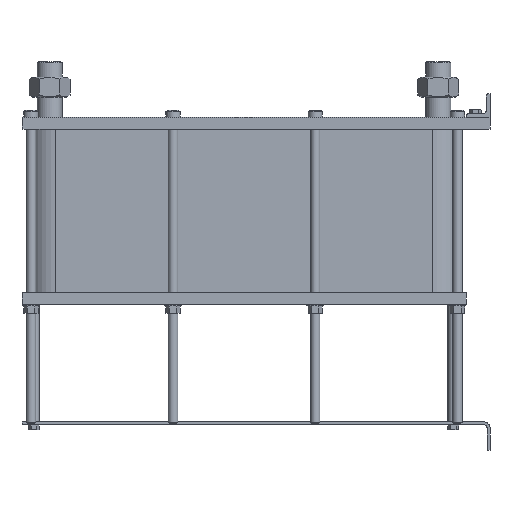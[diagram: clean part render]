
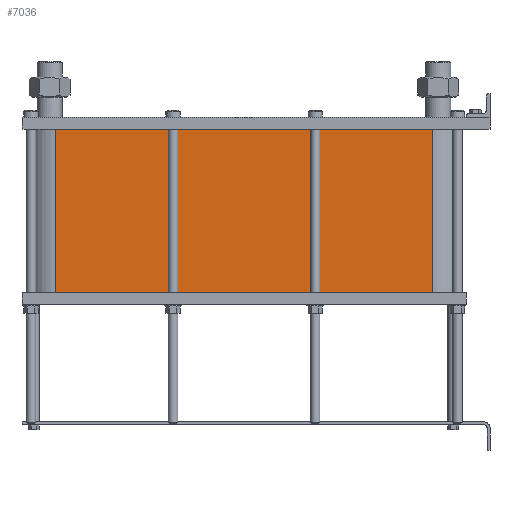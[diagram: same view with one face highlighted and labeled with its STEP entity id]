
A CAD part, left-side view. The second image highlights one B-rep face of the part: STEP entity #7036.
In plain terms, the highlighted planar face has unit normal (-1, 0, 0).
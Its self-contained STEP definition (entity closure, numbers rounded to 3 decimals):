
#999=LINE('',#15640,#1553);
#1031=LINE('',#15723,#1585);
#1032=LINE('',#15726,#1586);
#1033=LINE('',#15727,#1587);
#1553=VECTOR('',#9658,10.);
#1585=VECTOR('',#9736,10.);
#1586=VECTOR('',#9741,10.);
#1587=VECTOR('',#9742,10.);
#2117=FACE_OUTER_BOUND('',#2671,.T.);
#2671=EDGE_LOOP('',(#6246,#6247,#6248,#6249));
#3527=VERTEX_POINT('',#15634);
#3529=VERTEX_POINT('',#15638);
#3556=VERTEX_POINT('',#15720);
#3557=VERTEX_POINT('',#15722);
#4425=EDGE_CURVE('',#3529,#3527,#999,.T.);
#4466=EDGE_CURVE('',#3557,#3556,#1031,.T.);
#4468=EDGE_CURVE('',#3527,#3556,#1032,.T.);
#4469=EDGE_CURVE('',#3557,#3529,#1033,.T.);
#6246=ORIENTED_EDGE('',*,*,#4468,.F.);
#6247=ORIENTED_EDGE('',*,*,#4425,.F.);
#6248=ORIENTED_EDGE('',*,*,#4469,.F.);
#6249=ORIENTED_EDGE('',*,*,#4466,.T.);
#6608=PLANE('',#7812);
#7036=ADVANCED_FACE('',(#2117),#6608,.T.);
#7812=AXIS2_PLACEMENT_3D('',#15725,#9739,#9740);
#9658=DIRECTION('',(0.,0.,-1.));
#9736=DIRECTION('',(0.,0.,-1.));
#9739=DIRECTION('center_axis',(-1.,0.,0.));
#9740=DIRECTION('ref_axis',(0.,1.,0.));
#9741=DIRECTION('',(0.,1.,0.));
#9742=DIRECTION('',(0.,-1.,0.));
#15634=CARTESIAN_POINT('',(-72.,97.5,-275.9));
#15638=CARTESIAN_POINT('',(-72.,97.5,0.));
#15640=CARTESIAN_POINT('',(-72.,97.5,0.));
#15720=CARTESIAN_POINT('',(-72.,733.5,-275.9));
#15722=CARTESIAN_POINT('',(-72.,733.5,0.));
#15723=CARTESIAN_POINT('',(-72.,733.5,0.));
#15725=CARTESIAN_POINT('Origin',(-72.,97.5,0.));
#15726=CARTESIAN_POINT('',(-72.,256.5,-275.9));
#15727=CARTESIAN_POINT('',(-72.,733.5,0.));
